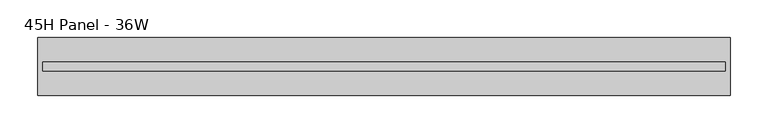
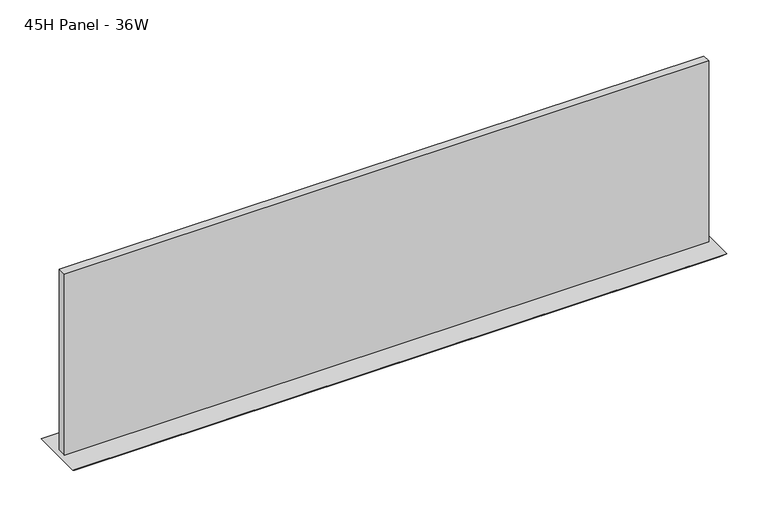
"""IFC4 building model written with IfcOpenShell, lengths in millimetres: furniture geometry, Steelcase - Montage - Tiles - 10H - Frameless Glass Stacker : 45H Panel - 36W."""

from ifc_helpers import new_model, si_unit, frame, origin, place, context, project, spatial, polyline, outline, extrude, faceted_brep, source, transform, mapped, element, save


def furniture_45h_panel_36w_8c2614d2(model_context):
    return source(origin(), model_context, "Body", "SolidModel", [
        faceted_brep([(914.4, -38.1000015, 1136.65), (0.0, -38.1000015, 1136.65), (6.35, -31.7500015, 1130.3), (908.05, -31.7500015, 1130.3), (6.35, 31.7500015, 1130.3), (908.05, 31.7500015, 1130.3), (0.0, 38.1000015, 1136.65), (914.4, 38.1000015, 1136.65)], [[[0, 1, 2, 3]], [[3, 2, 4, 5]], [[6, 7, 5, 4]], [[1, 0, 7, 6]], [[2, 1, 6, 4]], [[0, 3, 5, 7]]]),
        extrude(outline(polyline([(907.6181828, -5.9944001), (6.7818001, -5.9944001), (6.7818001, 5.9944008), (907.6181828, 5.9944008), (907.6181828, -5.9944001)])), frame((0.0, 0.0, 1136.65), z_axis=(0.0, 0.0, 1.0), x_axis=(1.0, 0.0, 0.0)), (0.0, 0.0, 1.0), 267.7160475),
    ])


if __name__ == "__main__":
    model = new_model("IFC4")
    model_context = context("Model", 3, world=origin())
    ifc_project = project(units=[si_unit("LENGTHUNIT", "METRE", prefix="MILLI")], contexts=[model_context])
    site = spatial("IfcSite", under=ifc_project)
    building = spatial("IfcBuilding", under=site)
    placement = place(None, origin())
    furniture_45h_panel_36w_shape = furniture_45h_panel_36w_8c2614d2(model_context)
    element("IfcFurniture", 1, ObjectType="Steelcase - Montage - Tiles - 10H - Frameless Glass Stacker : 45H Panel - 36W", at=placement, inside=building, context=model_context, shape_type="MappedRepresentation", body=[
        mapped(furniture_45h_panel_36w_shape, transform((0.0, 0.0, 0.0), x_axis=(1.0, 0.0, 0.0), y_axis=(0.0, 1.0, 0.0), z_axis=(0.0, 0.0, 1.0))),
    ])
    save(model, "model.ifc")
